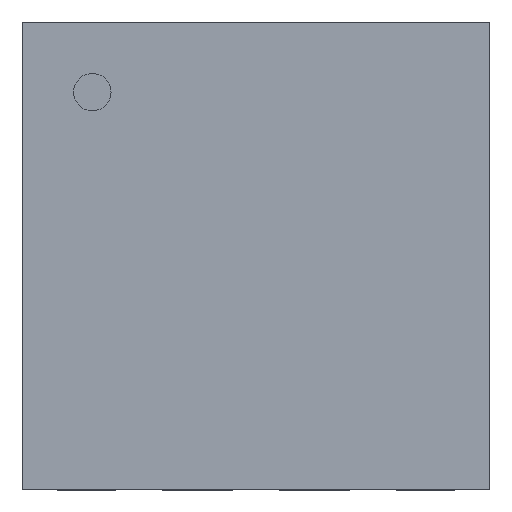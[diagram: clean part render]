
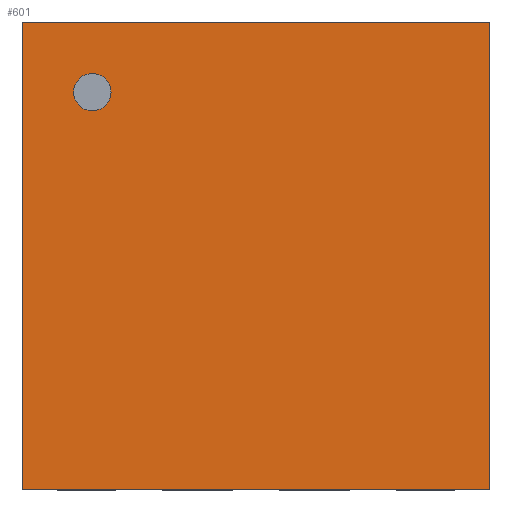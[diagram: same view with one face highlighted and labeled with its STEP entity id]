
A CAD part, top view. The second image highlights one B-rep face of the part: STEP entity #601.
In plain terms, the highlighted planar face has unit normal (0, 0, 1).
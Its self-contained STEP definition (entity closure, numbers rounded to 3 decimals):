
#47 = EDGE_CURVE('',#48,#50,#52,.T.);
#48 = VERTEX_POINT('',#49);
#49 = CARTESIAN_POINT('',(-1.,-1.,1.));
#50 = VERTEX_POINT('',#51);
#51 = CARTESIAN_POINT('',(-1.,1.,1.));
#52 = SURFACE_CURVE('',#53,(#57,#69),.PCURVE_S1.);
#53 = LINE('',#54,#55);
#54 = CARTESIAN_POINT('',(-1.,-1.,1.));
#55 = VECTOR('',#56,1.);
#56 = DIRECTION('',(0.,1.,0.));
#57 = PCURVE('',#58,#63);
#58 = PLANE('',#59);
#59 = AXIS2_PLACEMENT_3D('',#60,#61,#62);
#60 = CARTESIAN_POINT('',(-1.,-1.,0.025));
#61 = DIRECTION('',(1.,0.,0.));
#62 = DIRECTION('',(0.,0.,1.));
#63 = DEFINITIONAL_REPRESENTATION('',(#64),#68);
#64 = LINE('',#65,#66);
#65 = CARTESIAN_POINT('',(0.975,0.));
#66 = VECTOR('',#67,1.);
#67 = DIRECTION('',(0.,-1.));
#68 = ( GEOMETRIC_REPRESENTATION_CONTEXT(2) 
PARAMETRIC_REPRESENTATION_CONTEXT() REPRESENTATION_CONTEXT('2D SPACE',''
  ) );
#69 = PCURVE('',#70,#75);
#70 = PLANE('',#71);
#71 = AXIS2_PLACEMENT_3D('',#72,#73,#74);
#72 = CARTESIAN_POINT('',(-1.,-1.,1.));
#73 = DIRECTION('',(0.,0.,1.));
#74 = DIRECTION('',(1.,0.,0.));
#75 = DEFINITIONAL_REPRESENTATION('',(#76),#80);
#76 = LINE('',#77,#78);
#77 = CARTESIAN_POINT('',(0.,0.));
#78 = VECTOR('',#79,1.);
#79 = DIRECTION('',(0.,1.));
#80 = ( GEOMETRIC_REPRESENTATION_CONTEXT(2) 
PARAMETRIC_REPRESENTATION_CONTEXT() REPRESENTATION_CONTEXT('2D SPACE',''
  ) );
#98 = PLANE('',#99);
#99 = AXIS2_PLACEMENT_3D('',#100,#101,#102);
#100 = CARTESIAN_POINT('',(-1.,-1.,0.025));
#101 = DIRECTION('',(0.,1.,0.));
#102 = DIRECTION('',(0.,0.,1.));
#590 = PLANE('',#591);
#591 = AXIS2_PLACEMENT_3D('',#592,#593,#594);
#592 = CARTESIAN_POINT('',(-1.,1.,0.025));
#593 = DIRECTION('',(0.,1.,0.));
#594 = DIRECTION('',(0.,0.,1.));
#601 = ADVANCED_FACE('',(#602,#677),#70,.T.);
#602 = FACE_BOUND('',#603,.T.);
#603 = EDGE_LOOP('',(#604,#605,#628,#656));
#604 = ORIENTED_EDGE('',*,*,#47,.F.);
#605 = ORIENTED_EDGE('',*,*,#606,.T.);
#606 = EDGE_CURVE('',#48,#607,#609,.T.);
#607 = VERTEX_POINT('',#608);
#608 = CARTESIAN_POINT('',(1.,-1.,1.));
#609 = SURFACE_CURVE('',#610,(#614,#621),.PCURVE_S1.);
#610 = LINE('',#611,#612);
#611 = CARTESIAN_POINT('',(-1.,-1.,1.));
#612 = VECTOR('',#613,1.);
#613 = DIRECTION('',(1.,0.,0.));
#614 = PCURVE('',#70,#615);
#615 = DEFINITIONAL_REPRESENTATION('',(#616),#620);
#616 = LINE('',#617,#618);
#617 = CARTESIAN_POINT('',(0.,0.));
#618 = VECTOR('',#619,1.);
#619 = DIRECTION('',(1.,0.));
#620 = ( GEOMETRIC_REPRESENTATION_CONTEXT(2) 
PARAMETRIC_REPRESENTATION_CONTEXT() REPRESENTATION_CONTEXT('2D SPACE',''
  ) );
#621 = PCURVE('',#98,#622);
#622 = DEFINITIONAL_REPRESENTATION('',(#623),#627);
#623 = LINE('',#624,#625);
#624 = CARTESIAN_POINT('',(0.975,0.));
#625 = VECTOR('',#626,1.);
#626 = DIRECTION('',(0.,1.));
#627 = ( GEOMETRIC_REPRESENTATION_CONTEXT(2) 
PARAMETRIC_REPRESENTATION_CONTEXT() REPRESENTATION_CONTEXT('2D SPACE',''
  ) );
#628 = ORIENTED_EDGE('',*,*,#629,.T.);
#629 = EDGE_CURVE('',#607,#630,#632,.T.);
#630 = VERTEX_POINT('',#631);
#631 = CARTESIAN_POINT('',(1.,1.,1.));
#632 = SURFACE_CURVE('',#633,(#637,#644),.PCURVE_S1.);
#633 = LINE('',#634,#635);
#634 = CARTESIAN_POINT('',(1.,-1.,1.));
#635 = VECTOR('',#636,1.);
#636 = DIRECTION('',(0.,1.,0.));
#637 = PCURVE('',#70,#638);
#638 = DEFINITIONAL_REPRESENTATION('',(#639),#643);
#639 = LINE('',#640,#641);
#640 = CARTESIAN_POINT('',(2.,0.));
#641 = VECTOR('',#642,1.);
#642 = DIRECTION('',(0.,1.));
#643 = ( GEOMETRIC_REPRESENTATION_CONTEXT(2) 
PARAMETRIC_REPRESENTATION_CONTEXT() REPRESENTATION_CONTEXT('2D SPACE',''
  ) );
#644 = PCURVE('',#645,#650);
#645 = PLANE('',#646);
#646 = AXIS2_PLACEMENT_3D('',#647,#648,#649);
#647 = CARTESIAN_POINT('',(1.,-1.,0.025));
#648 = DIRECTION('',(1.,0.,0.));
#649 = DIRECTION('',(0.,0.,1.));
#650 = DEFINITIONAL_REPRESENTATION('',(#651),#655);
#651 = LINE('',#652,#653);
#652 = CARTESIAN_POINT('',(0.975,0.));
#653 = VECTOR('',#654,1.);
#654 = DIRECTION('',(0.,-1.));
#655 = ( GEOMETRIC_REPRESENTATION_CONTEXT(2) 
PARAMETRIC_REPRESENTATION_CONTEXT() REPRESENTATION_CONTEXT('2D SPACE',''
  ) );
#656 = ORIENTED_EDGE('',*,*,#657,.F.);
#657 = EDGE_CURVE('',#50,#630,#658,.T.);
#658 = SURFACE_CURVE('',#659,(#663,#670),.PCURVE_S1.);
#659 = LINE('',#660,#661);
#660 = CARTESIAN_POINT('',(-1.,1.,1.));
#661 = VECTOR('',#662,1.);
#662 = DIRECTION('',(1.,0.,0.));
#663 = PCURVE('',#70,#664);
#664 = DEFINITIONAL_REPRESENTATION('',(#665),#669);
#665 = LINE('',#666,#667);
#666 = CARTESIAN_POINT('',(0.,2.));
#667 = VECTOR('',#668,1.);
#668 = DIRECTION('',(1.,0.));
#669 = ( GEOMETRIC_REPRESENTATION_CONTEXT(2) 
PARAMETRIC_REPRESENTATION_CONTEXT() REPRESENTATION_CONTEXT('2D SPACE',''
  ) );
#670 = PCURVE('',#590,#671);
#671 = DEFINITIONAL_REPRESENTATION('',(#672),#676);
#672 = LINE('',#673,#674);
#673 = CARTESIAN_POINT('',(0.975,0.));
#674 = VECTOR('',#675,1.);
#675 = DIRECTION('',(0.,1.));
#676 = ( GEOMETRIC_REPRESENTATION_CONTEXT(2) 
PARAMETRIC_REPRESENTATION_CONTEXT() REPRESENTATION_CONTEXT('2D SPACE',''
  ) );
#677 = FACE_BOUND('',#678,.T.);
#678 = EDGE_LOOP('',(#679));
#679 = ORIENTED_EDGE('',*,*,#680,.F.);
#680 = EDGE_CURVE('',#681,#681,#683,.T.);
#681 = VERTEX_POINT('',#682);
#682 = CARTESIAN_POINT('',(-0.62,0.7,1.));
#683 = SURFACE_CURVE('',#684,(#689,#696),.PCURVE_S1.);
#684 = CIRCLE('',#685,0.08);
#685 = AXIS2_PLACEMENT_3D('',#686,#687,#688);
#686 = CARTESIAN_POINT('',(-0.7,0.7,1.));
#687 = DIRECTION('',(0.,0.,1.));
#688 = DIRECTION('',(1.,0.,0.));
#689 = PCURVE('',#70,#690);
#690 = DEFINITIONAL_REPRESENTATION('',(#691),#695);
#691 = CIRCLE('',#692,0.08);
#692 = AXIS2_PLACEMENT_2D('',#693,#694);
#693 = CARTESIAN_POINT('',(0.3,1.7));
#694 = DIRECTION('',(1.,0.));
#695 = ( GEOMETRIC_REPRESENTATION_CONTEXT(2) 
PARAMETRIC_REPRESENTATION_CONTEXT() REPRESENTATION_CONTEXT('2D SPACE',''
  ) );
#696 = PCURVE('',#697,#702);
#697 = CYLINDRICAL_SURFACE('',#698,0.08);
#698 = AXIS2_PLACEMENT_3D('',#699,#700,#701);
#699 = CARTESIAN_POINT('',(-0.7,0.7,0.997));
#700 = DIRECTION('',(-0.,-0.,-1.));
#701 = DIRECTION('',(1.,0.,0.));
#702 = DEFINITIONAL_REPRESENTATION('',(#703),#707);
#703 = LINE('',#704,#705);
#704 = CARTESIAN_POINT('',(-0.,-0.003));
#705 = VECTOR('',#706,1.);
#706 = DIRECTION('',(-1.,0.));
#707 = ( GEOMETRIC_REPRESENTATION_CONTEXT(2) 
PARAMETRIC_REPRESENTATION_CONTEXT() REPRESENTATION_CONTEXT('2D SPACE',''
  ) );
